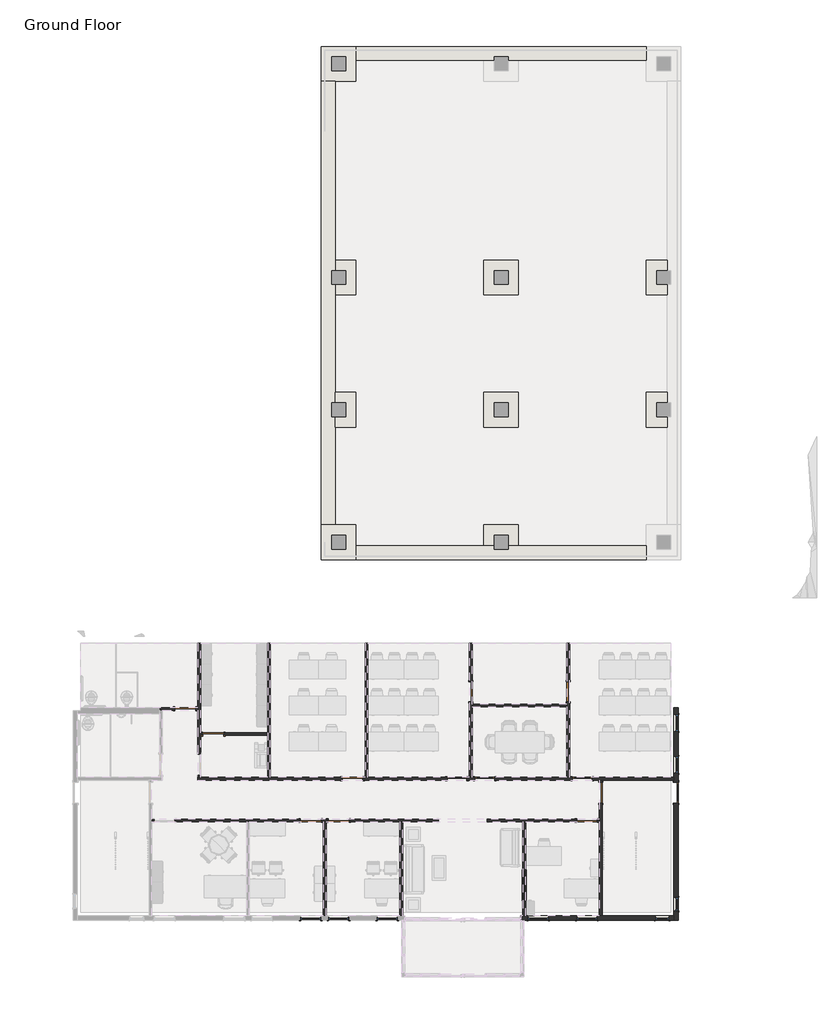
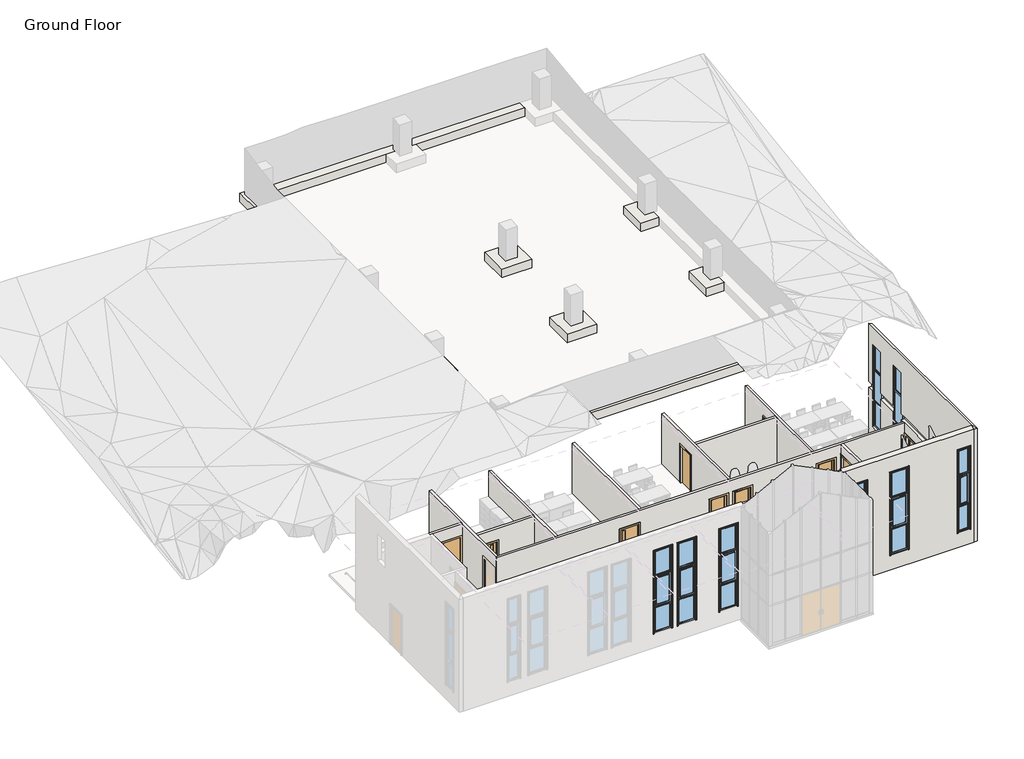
# One storey, part 3 of 5: 28 walls, 13 doors, 10 windows.
"""IFC4 building model written with IfcOpenShell, lengths in millimetres."""

from ifc_helpers import new_model, si_unit, frame, origin, place, context, project, spatial, polyline, outline, extrude, faceted_brep, transform, mapped, element, save
from components import door_ecd1ec3f, door_2f6dbc15, door_43f271b1, door_8f6ecfa2, door_0094a902, door_1467a2ec, door_2696ad5b, door_2dc82d73, door_9b494dca, window_81b49128, window_8adb934c, window_1e283364, window_fc414b9c

model = new_model("IFC4")

# Units and contexts
model_context = context("Model", 3, world=origin())
ifc_project = project(units=[si_unit("LENGTHUNIT", "METRE", prefix="MILLI")], contexts=[model_context])

# Site, building, storey
site = spatial("IfcSite", under=ifc_project)
building = spatial("IfcBuilding", under=site)
storey = spatial("IfcBuildingStorey", under=building, Name="Ground Floor", Elevation=39624.0)

# Doors
placement = place(None, origin())
door_shape = door_ecd1ec3f(model_context)
element("IfcDoor", 1, ObjectType="Single-Flush : 34\" x 80\"", at=placement, inside=storey, context=model_context, shape_type="MappedRepresentation", body=[
    mapped(door_shape, transform((-8424.8917336, -6050.0394844, 39624.0), x_axis=(0.0, -1.0, 0.0), y_axis=(1.0, 0.0, 0.0), z_axis=(0.0, 0.0, 1.0))),
])
door_2_shape = door_2f6dbc15(model_context)
element("IfcDoor", 2, ObjectType="Single-Flush : 34\" x 80\"", at=placement, inside=storey, context=model_context, shape_type="MappedRepresentation", body=[
    mapped(door_2_shape, transform((-4157.6917336, -6050.0394844, 39624.0), x_axis=(0.0, -1.0, 0.0), y_axis=(1.0, 0.0, 0.0), z_axis=(0.0, 0.0, 1.0))),
])
door_3_shape = door_43f271b1(model_context)
element("IfcDoor", 3, ObjectType="Single-Flush : 36\" x 80\"", at=placement, inside=storey, context=model_context, shape_type="MappedRepresentation", body=[
    mapped(door_3_shape, transform((-20921.6917336, -6808.8644844, 39624.0), x_axis=(1.0, 0.0, 0.0), y_axis=(0.0, 1.0, 0.0), z_axis=(0.0, 0.0, 1.0))),
])
door_4_shape = door_8f6ecfa2(model_context)
element("IfcDoor", 4, ObjectType="Single-Flush Vision : 36\" x 80\"", at=placement, inside=storey, context=model_context, shape_type="MappedRepresentation", body=[
    mapped(door_4_shape, transform((-14216.0917336, -11688.8394844, 39624.0), x_axis=(-1.0, 0.0, 0.0), y_axis=(0.0, -1.0, 0.0), z_axis=(0.0, 0.0, 1.0))),
])
element("IfcDoor", 5, ObjectType="Single-Flush Vision : 36\" x 80\"", at=placement, inside=storey, context=model_context, shape_type="MappedRepresentation", body=[
    mapped(door_4_shape, transform((-13606.4917336, -9860.0394844, 39624.0), x_axis=(1.0, 0.0, 0.0), y_axis=(0.0, 1.0, 0.0), z_axis=(0.0, 0.0, 1.0))),
])
door_5_shape = door_0094a902(model_context)
element("IfcDoor", 6, ObjectType="Single-Flush Vision : 36\" x 80\"", at=placement, inside=storey, context=model_context, shape_type="MappedRepresentation", body=[
    mapped(door_5_shape, transform((-15435.2917336, -11688.8394844, 39624.0), x_axis=(1.0, 0.0, 0.0), y_axis=(0.0, 1.0, 0.0), z_axis=(0.0, 0.0, 1.0))),
])
element("IfcDoor", 7, ObjectType="Single-Flush Vision : 36\" x 80\"", at=placement, inside=storey, context=model_context, shape_type="MappedRepresentation", body=[
    mapped(door_5_shape, transform((-19702.4917336, -7904.2394844, 39624.0), x_axis=(-1.0, 0.0, 0.0), y_axis=(0.0, -1.0, 0.0), z_axis=(0.0, 0.0, 1.0))),
])
element("IfcDoor", 8, ObjectType="Single-Flush Vision : 36\" x 80\"", at=placement, inside=storey, context=model_context, shape_type="MappedRepresentation", body=[
    mapped(door_5_shape, transform((-3344.8917336, -11688.8394844, 39624.0), x_axis=(1.0, 0.0, 0.0), y_axis=(0.0, 1.0, 0.0), z_axis=(0.0, 0.0, 1.0))),
])
door_6_shape = door_1467a2ec(model_context)
element("IfcDoor", 9, ObjectType="Single-Flush Vision : 36\" x 84\"", at=placement, inside=storey, context=model_context, shape_type="MappedRepresentation", body=[
    mapped(door_6_shape, transform((-2735.2917336, -10469.6394844, 39624.0), x_axis=(0.0, 1.0, 0.0), y_axis=(-1.0, 0.0, 0.0), z_axis=(0.0, 0.0, 1.0))),
])
door_7_shape = door_2696ad5b(model_context)
element("IfcDoor", 10, ObjectType="Single-Glass 1 : 34\" x 80\"", at=placement, inside=storey, context=model_context, shape_type="MappedRepresentation", body=[
    mapped(door_7_shape, transform((-9034.4917336, -9860.0394844, 39624.0), x_axis=(1.0, 0.0, 0.0), y_axis=(0.0, 1.0, 0.0), z_axis=(0.0, 0.0, 1.0))),
])
door_8_shape = door_2dc82d73(model_context)
element("IfcDoor", 11, ObjectType="Single-Glass 1 : 34\" x 80\"", at=placement, inside=storey, context=model_context, shape_type="MappedRepresentation", body=[
    mapped(door_8_shape, transform((-3548.0917336, -9860.0394844, 39624.0), x_axis=(-1.0, 0.0, 0.0), y_axis=(0.0, -1.0, 0.0), z_axis=(0.0, 0.0, 1.0))),
])
element("IfcDoor", 12, ObjectType="Single-Glass 1 : 34\" x 80\"", at=placement, inside=storey, context=model_context, shape_type="MappedRepresentation", body=[
    mapped(door_8_shape, transform((-7815.2917336, -9860.0394844, 39624.0), x_axis=(-1.0, 0.0, 0.0), y_axis=(0.0, -1.0, 0.0), z_axis=(0.0, 0.0, 1.0))),
])
door_9_shape = door_9b494dca(model_context)
element("IfcDoor", 13, ObjectType="Single-Glass 1 : 36\" x 84\"", at=placement, inside=storey, context=model_context, shape_type="MappedRepresentation", body=[
    mapped(door_9_shape, transform((555.5957664, -10469.6394844, 39624.0), x_axis=(0.0, 1.0, 0.0), y_axis=(-1.0, 0.0, 0.0), z_axis=(0.0, 0.0, 1.0))),
])

# Walls
element("IfcWall", 14, ObjectType="Exterior - Siding", at=placement, inside=storey, context=model_context, shape_type="Brep", body=[
    faceted_brep([(461.9332664, -15862.3769844, 39624.0), (-2673.3792336, -15862.3769844, 39624.0), (-2797.2042336, -15862.3769844, 39624.0), (-6026.1792336, -15862.3769844, 39624.0), (-6150.0042336, -15862.3769844, 39624.0), (-6245.2542336, -15862.3769844, 39624.0), (-6245.2542336, -15862.3769844, 42348.15), (-6150.0042336, -15862.3769844, 42348.15), (-6026.1792336, -15862.3769844, 42348.15), (-5935.6917336, -15862.3769844, 42348.15), (-5935.6917336, -15862.3769844, 40405.05), (-5021.2917336, -15862.3769844, 40405.05), (-5021.2917336, -15862.3769844, 42348.15), (-3802.0917336, -15862.3769844, 42348.15), (-3802.0917336, -15862.3769844, 40405.05), (-2887.6917336, -15862.3769844, 40405.05), (-2887.6917336, -15862.3769844, 42348.15), (-2797.2042336, -15862.3769844, 42348.15), (-2673.3792336, -15862.3769844, 42348.15), (-2673.3792336, -15862.3769844, 42672.0), (-2797.2042336, -15862.3769844, 42672.0), (-2887.6917336, -15862.3769844, 42672.0), (-2887.6917336, -15862.3769844, 44869.1), (-3802.0917336, -15862.3769844, 44869.1), (-3802.0917336, -15862.3769844, 42672.0), (-5021.2917336, -15862.3769844, 42672.0), (-5021.2917336, -15862.3769844, 44869.1), (-5935.6917336, -15862.3769844, 44869.1), (-5935.6917336, -15862.3769844, 42672.0), (-6026.1792336, -15862.3769844, 42672.0), (-6150.0042336, -15862.3769844, 42672.0), (-6245.2542336, -15862.3769844, 42672.0), (-6245.2542336, -15862.3769844, 45813.6625), (461.9332664, -15862.3769844, 45813.6625), (-358.8042336, -15862.3769844, 44869.1), (-358.8042336, -15862.3769844, 40405.05), (250.7957664, -15862.3769844, 40405.05), (250.7957664, -15862.3769844, 44869.1), (-6245.2542336, -16049.7019844, 39624.0), (461.9332664, -16049.7019844, 39624.0), (461.9332664, -16049.7019844, 45720.0), (-6181.7542336, -16049.7019844, 45720.0), (-6245.2542336, -16049.7019844, 45751.75), (-5935.6917336, -16049.7019844, 40405.05), (-5935.6917336, -16049.7019844, 44869.1), (-5021.2917336, -16049.7019844, 44869.1), (-5021.2917336, -16049.7019844, 40405.05), (-3802.0917336, -16049.7019844, 40405.05), (-3802.0917336, -16049.7019844, 44869.1), (-2887.6917336, -16049.7019844, 44869.1), (-2887.6917336, -16049.7019844, 40405.05), (-358.8042336, -16049.7019844, 40405.05), (-358.8042336, -16049.7019844, 44869.1), (250.7957664, -16049.7019844, 44869.1), (250.7957664, -16049.7019844, 40405.05), (-6245.2542336, -15986.2019844, 45751.75), (-6245.2542336, -16017.9519844, 42672.0), (-6245.2542336, -16017.9519844, 42348.15), (-5935.6917336, -16017.9519844, 42348.15), (-5935.6917336, -16017.9519844, 42672.0), (-5021.2917336, -16017.9519844, 42672.0), (-5021.2917336, -16017.9519844, 42348.15), (-3802.0917336, -16017.9519844, 42348.15), (-3802.0917336, -16017.9519844, 42672.0), (-2887.6917336, -16017.9519844, 42672.0), (-2887.6917336, -16017.9519844, 42348.15), (-2673.3792336, -16017.9519844, 42348.15), (-2673.3792336, -16017.9519844, 42672.0)], [[[0, 1, 2, 3, 4, 5, 6, 7, 8, 9, 10, 11, 12, 13, 14, 15, 16, 17, 18, 19, 20, 21, 22, 23, 24, 25, 26, 27, 28, 29, 30, 31, 32, 33], [34, 35, 36, 37]], [[38, 39, 40, 41, 42], [43, 44, 45, 46], [47, 48, 49, 50], [51, 52, 53, 54]], [[5, 4, 3, 2, 1, 0, 39, 38]], [[38, 42, 55, 32, 31, 56, 57, 6, 5]], [[0, 33, 40, 39]], [[40, 33, 32, 55, 41]], [[55, 42, 41]], [[27, 44, 43, 10, 9, 58, 59, 28]], [[10, 43, 46, 11]], [[11, 46, 45, 26, 25, 60, 61, 12]], [[44, 27, 26, 45]], [[23, 48, 47, 14, 13, 62, 63, 24]], [[14, 47, 50, 15]], [[15, 50, 49, 22, 21, 64, 65, 16]], [[48, 23, 22, 49]], [[35, 34, 52, 51]], [[36, 35, 51, 54]], [[37, 36, 54, 53]], [[34, 37, 53, 52]], [[57, 58, 9, 8, 7, 6]], [[61, 62, 13, 12]], [[65, 66, 18, 17, 16]], [[19, 67, 64, 21, 20]], [[59, 56, 31, 30, 29, 28]], [[63, 60, 25, 24]], [[66, 67, 19, 18]], [[67, 66, 65, 64]], [[58, 57, 56, 59]], [[62, 61, 60, 63]]]),
])
element("IfcWall", 15, ObjectType="Exterior - Siding", at=placement, inside=storey, context=model_context, shape_type="Brep", body=[
    faceted_brep([(461.9332664, -16049.7019844, 39624.0), (461.9332664, -16049.7019844, 45720.0), (461.9332664, -15862.3769844, 45813.6625), (461.9332664, -6746.9519844, 45813.6625), (461.9332664, -6746.9519844, 42672.0), (461.9332664, -7040.6394844, 42672.0), (461.9332664, -7040.6394844, 44869.1), (461.9332664, -7802.6394844, 44869.1), (461.9332664, -7802.6394844, 42672.0), (461.9332664, -8869.4394844, 42672.0), (461.9332664, -8869.4394844, 44869.1), (461.9332664, -9631.4394844, 44869.1), (461.9332664, -9631.4394844, 42672.0), (461.9332664, -9798.1269844, 42672.0), (461.9332664, -9921.9519844, 42672.0), (461.9332664, -12204.7769844, 42672.0), (461.9332664, -12204.7769844, 42348.15), (461.9332664, -9921.9519844, 42348.15), (461.9332664, -9798.1269844, 42348.15), (461.9332664, -9631.4394844, 42348.15), (461.9332664, -9631.4394844, 40405.05), (461.9332664, -8869.4394844, 40405.05), (461.9332664, -8869.4394844, 42348.15), (461.9332664, -7802.6394844, 42348.15), (461.9332664, -7802.6394844, 40405.05), (461.9332664, -7040.6394844, 40405.05), (461.9332664, -7040.6394844, 42348.15), (461.9332664, -6746.9519844, 42348.15), (461.9332664, -6746.9519844, 39624.0), (461.9332664, -9798.1269844, 39624.0), (461.9332664, -9921.9519844, 39624.0), (461.9332664, -10012.4394844, 39624.0), (461.9332664, -10012.4394844, 41757.6), (461.9332664, -10926.8394844, 41757.6), (461.9332664, -10926.8394844, 39624.0), (461.9332664, -15862.3769844, 39624.0), (461.9332664, -15651.2394844, 44869.1), (461.9332664, -15651.2394844, 40405.05), (461.9332664, -15041.6394844, 40405.05), (461.9332664, -15041.6394844, 44869.1), (649.2582664, -6746.9519844, 45720.0), (649.2582664, -16049.7019844, 45720.0), (649.2582664, -16049.7019844, 39624.0), (649.2582664, -10926.8394844, 39624.0), (649.2582664, -10926.8394844, 41757.6), (649.2582664, -10012.4394844, 41757.6), (649.2582664, -10012.4394844, 39624.0), (649.2582664, -6746.9519844, 39624.0), (649.2582664, -6746.9519844, 42672.0), (649.2582664, -15651.2394844, 40405.05), (649.2582664, -15651.2394844, 44869.1), (649.2582664, -15041.6394844, 44869.1), (649.2582664, -15041.6394844, 40405.05), (649.2582664, -9631.4394844, 40405.05), (649.2582664, -9631.4394844, 44869.1), (649.2582664, -8869.4394844, 44869.1), (649.2582664, -8869.4394844, 40405.05), (649.2582664, -7802.6394844, 40405.05), (649.2582664, -7802.6394844, 44869.1), (649.2582664, -7040.6394844, 44869.1), (649.2582664, -7040.6394844, 40405.05), (617.5082664, -6746.9519844, 42348.15), (617.5082664, -6746.9519844, 42672.0), (617.5082664, -9631.4394844, 42348.15), (617.5082664, -9631.4394844, 42672.0), (617.5082664, -8869.4394844, 42672.0), (617.5082664, -8869.4394844, 42348.15), (617.5082664, -7802.6394844, 42348.15), (617.5082664, -7802.6394844, 42672.0), (617.5082664, -7040.6394844, 42672.0), (617.5082664, -7040.6394844, 42348.15), (617.5082664, -12204.7769844, 42348.15), (617.5082664, -12204.7769844, 42672.0)], [[[0, 1, 2, 3, 4, 5, 6, 7, 8, 9, 10, 11, 12, 13, 14, 15, 16, 17, 18, 19, 20, 21, 22, 23, 24, 25, 26, 27, 28, 29, 30, 31, 32, 33, 34, 35], [36, 37, 38, 39]], [[40, 41, 42, 43, 44, 45, 46, 47, 48], [49, 50, 51, 52], [53, 54, 55, 56], [57, 58, 59, 60]], [[28, 47, 46, 31, 30, 29]], [[42, 0, 35, 34, 43]], [[40, 48, 47, 28, 27, 61, 62, 4, 3]], [[1, 0, 42, 41]], [[41, 40, 3, 2]], [[1, 41, 2]], [[32, 31, 46, 45]], [[33, 32, 45, 44]], [[34, 33, 44, 43]], [[37, 36, 50, 49]], [[38, 37, 49, 52]], [[39, 38, 52, 51]], [[36, 39, 51, 50]], [[54, 53, 20, 19, 63, 64, 12, 11]], [[21, 20, 53, 56]], [[56, 55, 10, 9, 65, 66, 22, 21]], [[11, 10, 55, 54]], [[58, 57, 24, 23, 67, 68, 8, 7]], [[25, 24, 57, 60]], [[60, 59, 6, 5, 69, 70, 26, 25]], [[7, 6, 59, 58]], [[16, 71, 63, 19, 18, 17]], [[66, 67, 23, 22]], [[70, 61, 27, 26]], [[64, 72, 15, 14, 13, 12]], [[68, 65, 9, 8]], [[62, 69, 5, 4]], [[71, 72, 64, 63]], [[67, 66, 65, 68]], [[61, 70, 69, 62]], [[72, 71, 16, 15]]]),
])
element("IfcWall", 16, ObjectType="Footing", at=placement, inside=storey, context=model_context, shape_type="Brep", body=[
    faceted_brep([(-13454.0917336, 21574.0480156, 40233.6), (-7866.0917336, 21574.0480156, 40233.6), (-6342.0917336, 21574.0480156, 40233.6), (-754.0917336, 21574.0480156, 40233.6), (-754.0917336, 21574.0480156, 40690.8), (-6342.0917336, 21574.0480156, 40690.8), (-7866.0917336, 21574.0480156, 40690.8), (-13454.0917336, 21574.0480156, 40690.8), (-13454.0917336, 22183.6480156, 40233.6), (-13454.0917336, 22183.6480156, 40690.8), (-754.0917336, 22183.6480156, 40690.8), (-754.0917336, 22183.6480156, 40233.6)], [[[0, 1, 2, 3, 4, 5, 6, 7]], [[8, 9, 10, 11]], [[3, 2, 1, 0, 8, 11]], [[7, 6, 5, 4, 10, 9]], [[4, 3, 11, 10]], [[0, 7, 9, 8]]]),
])
element("IfcWall", 17, ObjectType="Footing", at=placement, inside=storey, context=model_context, shape_type="Brep", body=[
    faceted_brep([(-754.0917336, 339.6480156, 40233.6), (-6342.0917336, 339.6480156, 40233.6), (-7866.0917336, 339.6480156, 40233.6), (-13454.0917336, 339.6480156, 40233.6), (-13454.0917336, 339.6480156, 40690.8), (-7866.0917336, 339.6480156, 40690.8), (-6342.0917336, 339.6480156, 40690.8), (-754.0917336, 339.6480156, 40690.8), (-754.0917336, -269.9519844, 40233.6), (-754.0917336, -269.9519844, 40690.8), (-13454.0917336, -269.9519844, 40690.8), (-13454.0917336, -269.9519844, 40233.6)], [[[0, 1, 2, 3, 4, 5, 6, 7]], [[8, 9, 10, 11]], [[3, 2, 1, 0, 8, 11]], [[7, 6, 5, 4, 10, 9]], [[4, 3, 11, 10]], [[0, 7, 9, 8]]]),
])
element("IfcWall", 18, ObjectType="Footing", at=placement, inside=storey, context=model_context, shape_type="Brep", body=[
    faceted_brep([(-14368.4917336, 1254.0480156, 40233.6), (-14368.4917336, 5521.2480156, 40233.6), (-14368.4917336, 7045.2480156, 40233.6), (-14368.4917336, 11312.4480156, 40233.6), (-14368.4917336, 12836.4480156, 40233.6), (-14368.4917336, 20659.6480156, 40233.6), (-14368.4917336, 20659.6480156, 40690.8), (-14368.4917336, 12836.4480156, 40690.8), (-14368.4917336, 11312.4480156, 40690.8), (-14368.4917336, 7045.2480156, 40690.8), (-14368.4917336, 5521.2480156, 40690.8), (-14368.4917336, 1254.0480156, 40690.8), (-14978.0917336, 1254.0480156, 40233.6), (-14978.0917336, 1254.0480156, 40690.8), (-14978.0917336, 20659.6480156, 40690.8), (-14978.0917336, 20659.6480156, 40233.6)], [[[0, 1, 2, 3, 4, 5, 6, 7, 8, 9, 10, 11]], [[12, 13, 14, 15]], [[5, 4, 3, 2, 1, 0, 12, 15]], [[6, 5, 15, 14]], [[11, 10, 9, 8, 7, 6, 14, 13]], [[0, 11, 13, 12]]]),
])
element("IfcWall", 19, ObjectType="Footing 2", at=placement, inside=storey, context=model_context, shape_type="Brep", body=[
    faceted_brep([(-13454.0917336, -269.9519844, 40233.6), (-13454.0917336, 339.6480156, 40233.6), (-13454.0917336, 1254.0480156, 40233.6), (-13454.0917336, 1254.0480156, 40690.8), (-13454.0917336, 339.6480156, 40690.8), (-13454.0917336, -269.9519844, 40690.8), (-14978.0917336, -269.9519844, 40233.6), (-14978.0917336, -269.9519844, 40690.8), (-14978.0917336, 1254.0480156, 40690.8), (-14978.0917336, 1254.0480156, 40233.6), (-14368.4917336, 1254.0480156, 40233.6), (-14368.4917336, 1254.0480156, 40690.8)], [[[0, 1, 2, 3, 4, 5]], [[6, 7, 8, 9]], [[2, 1, 0, 6, 9, 10]], [[3, 2, 10, 9, 8, 11]], [[5, 4, 3, 11, 8, 7]], [[0, 5, 7, 6]]]),
])
element("IfcWall", 20, ObjectType="Footing 2", at=placement, inside=storey, context=model_context, shape_type="SweptSolid", body=[
    extrude(outline(polyline([(-13454.0917336, 11312.4480156), (-14368.4917336, 11312.4480156), (-14368.4917336, 12836.4480156), (-13454.0917336, 12836.4480156), (-13454.0917336, 11312.4480156)])), frame((0.0, 0.0, 40233.6), z_axis=(0.0, 0.0, 1.0), x_axis=(1.0, 0.0, 0.0)), (0.0, 0.0, 1.0), 457.2),
])
element("IfcWall", 21, ObjectType="Footing 2", at=placement, inside=storey, context=model_context, shape_type="SweptSolid", body=[
    extrude(outline(polyline([(160.3082664, 11312.4480156), (-754.0917336, 11312.4480156), (-754.0917336, 12836.4480156), (160.3082664, 12836.4480156), (160.3082664, 11312.4480156)])), frame((0.0, 0.0, 40233.6), z_axis=(0.0, 0.0, 1.0), x_axis=(1.0, 0.0, 0.0)), (0.0, 0.0, 1.0), 457.2),
])
element("IfcWall", 22, ObjectType="Footing 2", at=placement, inside=storey, context=model_context, shape_type="SweptSolid", body=[
    extrude(outline(polyline([(-13454.0917336, 5521.2480156), (-14368.4917336, 5521.2480156), (-14368.4917336, 7045.2480156), (-13454.0917336, 7045.2480156), (-13454.0917336, 5521.2480156)])), frame((0.0, 0.0, 40233.6), z_axis=(0.0, 0.0, 1.0), x_axis=(1.0, 0.0, 0.0)), (0.0, 0.0, 1.0), 457.2),
])
element("IfcWall", 23, ObjectType="Footing 2", at=placement, inside=storey, context=model_context, shape_type="SweptSolid", body=[
    extrude(outline(polyline([(160.3082664, 5521.2480156), (-754.0917336, 5521.2480156), (-754.0917336, 7045.2480156), (160.3082664, 7045.2480156), (160.3082664, 5521.2480156)])), frame((0.0, 0.0, 40233.6), z_axis=(0.0, 0.0, 1.0), x_axis=(1.0, 0.0, 0.0)), (0.0, 0.0, 1.0), 457.2),
])
element("IfcWall", 24, ObjectType="Footing 2", at=placement, inside=storey, context=model_context, shape_type="SweptSolid", body=[
    extrude(outline(polyline([(-6342.0917336, 1254.0480156), (-6342.0917336, 339.6480156), (-7866.0917336, 339.6480156), (-7866.0917336, 1254.0480156), (-6342.0917336, 1254.0480156)])), frame((0.0, 0.0, 40233.6), z_axis=(0.0, 0.0, 1.0), x_axis=(1.0, 0.0, 0.0)), (0.0, 0.0, 1.0), 457.2),
])
element("IfcWall", 25, ObjectType="Footing 2", at=placement, inside=storey, context=model_context, shape_type="Brep", body=[
    faceted_brep([(-13454.0917336, 20659.6480156, 40233.6), (-13454.0917336, 21574.0480156, 40233.6), (-13454.0917336, 22183.6480156, 40233.6), (-13454.0917336, 22183.6480156, 40690.8), (-13454.0917336, 21574.0480156, 40690.8), (-13454.0917336, 20659.6480156, 40690.8), (-14978.0917336, 20659.6480156, 40233.6), (-14978.0917336, 20659.6480156, 40690.8), (-14978.0917336, 22183.6480156, 40690.8), (-14978.0917336, 22183.6480156, 40233.6), (-14368.4917336, 20659.6480156, 40233.6), (-14368.4917336, 20659.6480156, 40690.8)], [[[0, 1, 2, 3, 4, 5]], [[6, 7, 8, 9]], [[2, 1, 0, 10, 6, 9]], [[5, 4, 3, 8, 7, 11]], [[0, 5, 11, 7, 6, 10]], [[3, 2, 9, 8]]]),
])
element("IfcWall", 26, ObjectType="Footing 2", at=placement, inside=storey, context=model_context, shape_type="SweptSolid", body=[
    extrude(outline(polyline([(-6342.0917336, 12836.4480156), (-6342.0917336, 11312.4480156), (-7866.0917336, 11312.4480156), (-7866.0917336, 12836.4480156), (-6342.0917336, 12836.4480156)])), frame((0.0, 0.0, 40233.6), z_axis=(0.0, 0.0, 1.0), x_axis=(1.0, 0.0, 0.0)), (0.0, 0.0, 1.0), 457.2),
])
element("IfcWall", 27, ObjectType="Footing 2", at=placement, inside=storey, context=model_context, shape_type="SweptSolid", body=[
    extrude(outline(polyline([(-6342.0917336, 7045.2480156), (-6342.0917336, 5521.2480156), (-7866.0917336, 5521.2480156), (-7866.0917336, 7045.2480156), (-6342.0917336, 7045.2480156)])), frame((0.0, 0.0, 40233.6), z_axis=(0.0, 0.0, 1.0), x_axis=(1.0, 0.0, 0.0)), (0.0, 0.0, 1.0), 457.2),
])
element("IfcWall", 28, ObjectType="Interior - 4 7/8\" Partition (1-hr)", at=placement, inside=storey, context=model_context, shape_type="Brep", body=[
    faceted_brep([(-2673.3792336, -10012.4394844, 41757.6), (-2673.3792336, -10012.4394844, 39624.0), (-2673.3792336, -9921.9519844, 39624.0), (-2673.3792336, -9921.9519844, 42348.15), (-2673.3792336, -12204.7769844, 42348.15), (-2673.3792336, -15862.3769844, 42348.15), (-2673.3792336, -15862.3769844, 39624.0), (-2673.3792336, -10926.8394844, 39624.0), (-2673.3792336, -10926.8394844, 41757.6), (-2797.2042336, -9921.9519844, 39624.0), (-2797.2042336, -10012.4394844, 39624.0), (-2797.2042336, -10012.4394844, 41757.6), (-2797.2042336, -10926.8394844, 41757.6), (-2797.2042336, -10926.8394844, 39624.0), (-2797.2042336, -11626.9269844, 39624.0), (-2797.2042336, -11750.7519844, 39624.0), (-2797.2042336, -15862.3769844, 39624.0), (-2797.2042336, -15862.3769844, 42348.15), (-2797.2042336, -11750.7519844, 42348.15), (-2797.2042336, -11626.9269844, 42348.15), (-2797.2042336, -9921.9519844, 42348.15)], [[[0, 1, 2, 3, 4, 5, 6, 7, 8]], [[9, 10, 11, 12, 13, 14, 15, 16, 17, 18, 19, 20]], [[2, 1, 10, 9]], [[7, 6, 16, 15, 14, 13]], [[6, 5, 17, 16]], [[3, 2, 9, 20]], [[5, 4, 3, 20, 19, 18, 17]], [[11, 10, 1, 0]], [[12, 11, 0, 8]], [[13, 12, 8, 7]]]),
])
element("IfcWall", 29, ObjectType="Interior - 4 7/8\" Partition (1-hr)", at=placement, inside=storey, context=model_context, shape_type="Brep", body=[
    faceted_brep([(-3802.0917336, -11626.9269844, 39624.0), (-7713.6917336, -11626.9269844, 39624.0), (-7713.6917336, -11626.9269844, 41757.6), (-9847.2917336, -11626.9269844, 41757.6), (-9847.2917336, -11626.9269844, 39624.0), (-13758.8917336, -11626.9269844, 39624.0), (-13758.8917336, -11626.9269844, 41656.0), (-14673.2917336, -11626.9269844, 41656.0), (-14673.2917336, -11626.9269844, 39624.0), (-14978.0917336, -11626.9269844, 39624.0), (-14978.0917336, -11626.9269844, 41656.0), (-15892.4917336, -11626.9269844, 41656.0), (-15892.4917336, -11626.9269844, 39624.0), (-21378.8917336, -11626.9269844, 39624.0), (-21378.8917336, -11626.9269844, 41757.6), (-22293.2917336, -11626.9269844, 41757.6), (-22293.2917336, -11626.9269844, 39624.0), (-22383.7792336, -11626.9269844, 39624.0), (-22383.7792336, -11626.9269844, 42348.15), (-2797.2042336, -11626.9269844, 42348.15), (-2797.2042336, -11626.9269844, 39624.0), (-2887.6917336, -11626.9269844, 39624.0), (-2887.6917336, -11626.9269844, 41656.0), (-3802.0917336, -11626.9269844, 41656.0), (-7713.6917336, -11750.7519844, 41757.6), (-7713.6917336, -11750.7519844, 39624.0), (-6150.0042336, -11750.7519844, 39624.0), (-6026.1792336, -11750.7519844, 39624.0), (-3802.0917336, -11750.7519844, 39624.0), (-3802.0917336, -11750.7519844, 41656.0), (-2887.6917336, -11750.7519844, 41656.0), (-2887.6917336, -11750.7519844, 39624.0), (-2797.2042336, -11750.7519844, 39624.0), (-2797.2042336, -11750.7519844, 42348.15), (-6026.1792336, -11750.7519844, 42348.15), (-6150.0042336, -11750.7519844, 42348.15), (-11410.9792336, -11750.7519844, 42348.15), (-11534.8042336, -11750.7519844, 42348.15), (-14763.7792336, -11750.7519844, 42348.15), (-14887.6042336, -11750.7519844, 42348.15), (-18116.5792336, -11750.7519844, 42348.15), (-18240.4042336, -11750.7519844, 42348.15), (-22383.7792336, -11750.7519844, 42348.15), (-22383.7792336, -11750.7519844, 39624.0), (-22293.2917336, -11750.7519844, 39624.0), (-22293.2917336, -11750.7519844, 41757.6), (-21378.8917336, -11750.7519844, 41757.6), (-21378.8917336, -11750.7519844, 39624.0), (-18240.4042336, -11750.7519844, 39624.0), (-18116.5792336, -11750.7519844, 39624.0), (-15892.4917336, -11750.7519844, 39624.0), (-15892.4917336, -11750.7519844, 41656.0), (-14978.0917336, -11750.7519844, 41656.0), (-14978.0917336, -11750.7519844, 39624.0), (-14887.6042336, -11750.7519844, 39624.0), (-14763.7792336, -11750.7519844, 39624.0), (-14673.2917336, -11750.7519844, 39624.0), (-14673.2917336, -11750.7519844, 41656.0), (-13758.8917336, -11750.7519844, 41656.0), (-13758.8917336, -11750.7519844, 39624.0), (-11534.8042336, -11750.7519844, 39624.0), (-11410.9792336, -11750.7519844, 39624.0), (-9847.2917336, -11750.7519844, 39624.0), (-9847.2917336, -11750.7519844, 41757.6)], [[[0, 1, 2, 3, 4, 5, 6, 7, 8, 9, 10, 11, 12, 13, 14, 15, 16, 17, 18, 19, 20, 21, 22, 23]], [[24, 25, 26, 27, 28, 29, 30, 31, 32, 33, 34, 35, 36, 37, 38, 39, 40, 41, 42, 43, 44, 45, 46, 47, 48, 49, 50, 51, 52, 53, 54, 55, 56, 57, 58, 59, 60, 61, 62, 63]], [[56, 55, 54, 53, 9, 8]], [[32, 31, 21, 20]], [[17, 16, 44, 43]], [[13, 12, 50, 49, 48, 47]], [[28, 27, 26, 25, 1, 0]], [[62, 61, 60, 59, 5, 4]], [[18, 17, 43, 42]], [[20, 19, 33, 32]], [[19, 18, 42, 41, 40, 39, 38, 37, 36, 35, 34, 33]], [[57, 56, 8, 7]], [[58, 57, 7, 6]], [[59, 58, 6, 5]], [[10, 9, 53, 52]], [[11, 10, 52, 51]], [[12, 11, 51, 50]], [[45, 44, 16, 15]], [[46, 45, 15, 14]], [[47, 46, 14, 13]], [[22, 21, 31, 30]], [[23, 22, 30, 29]], [[0, 23, 29, 28]], [[4, 3, 63, 62]], [[2, 1, 25, 24]], [[3, 2, 24, 63]]]),
])
element("IfcWall", 30, ObjectType="Interior - 4 7/8\" Partition (1-hr)", at=placement, inside=storey, context=model_context, shape_type="SweptSolid", body=[
    extrude(outline(polyline([(-14763.7792336, -11750.7519844), (-14763.7792336, -15862.3769844), (-14887.6042336, -15862.3769844), (-14887.6042336, -11750.7519844), (-14763.7792336, -11750.7519844)])), frame((0.0, 0.0, 39624.0), z_axis=(0.0, 0.0, 1.0), x_axis=(1.0, 0.0, 0.0)), (0.0, 0.0, 1.0), 2724.15),
])
element("IfcWall", 31, ObjectType="Interior - 4 7/8\" Partition (1-hr)", at=placement, inside=storey, context=model_context, shape_type="SweptSolid", body=[
    extrude(outline(polyline([(-11410.9792336, -11750.7519844), (-11410.9792336, -15862.3769844), (-11534.8042336, -15862.3769844), (-11534.8042336, -11750.7519844), (-11410.9792336, -11750.7519844)])), frame((0.0, 0.0, 39624.0), z_axis=(0.0, 0.0, 1.0), x_axis=(1.0, 0.0, 0.0)), (0.0, 0.0, 1.0), 2724.15),
])
element("IfcWall", 32, ObjectType="Interior - 4 7/8\" Partition (1-hr)", at=placement, inside=storey, context=model_context, shape_type="SweptSolid", body=[
    extrude(outline(polyline([(-15862.3769844, 39624.0), (-15862.3769844, 42348.15), (-11750.7519844, 42348.15), (-11750.7519844, 39624.0), (-15862.3769844, 39624.0)]), holes=[polyline([(-13906.5769844, 41757.6), (-15125.7769844, 41757.6), (-15125.7769844, 40538.4), (-13906.5769844, 40538.4), (-13906.5769844, 41757.6)])]), frame((-6150.0042336, 0.0, 0.0), z_axis=(1.0, 0.0, 0.0), x_axis=(0.0, 1.0, 0.0)), (0.0, 0.0, 1.0), 123.825),
])
element("IfcWall", 33, ObjectType="Interior - 4 7/8\" Partition (1-hr)", at=placement, inside=storey, context=model_context, shape_type="Brep", body=[
    faceted_brep([(-20374.0042336, -9707.6394844, 41656.0), (-20374.0042336, -9707.6394844, 39624.0), (-20374.0042336, -9798.1269844, 39624.0), (-20374.0042336, -9798.1269844, 42348.15), (-20374.0042336, -6870.7769844, 42348.15), (-20374.0042336, -6746.9519844, 42348.15), (-20374.0042336, -3927.5519844, 42348.15), (-20374.0042336, -3927.5519844, 39624.0), (-20374.0042336, -6746.9519844, 39624.0), (-20374.0042336, -6870.7769844, 39624.0), (-20374.0042336, -8793.2394844, 39624.0), (-20374.0042336, -8793.2394844, 41656.0), (-20250.1792336, -9798.1269844, 39624.0), (-20250.1792336, -9707.6394844, 39624.0), (-20250.1792336, -9707.6394844, 41656.0), (-20250.1792336, -8793.2394844, 41656.0), (-20250.1792336, -8793.2394844, 39624.0), (-20250.1792336, -7966.1519844, 39624.0), (-20250.1792336, -7842.3269844, 39624.0), (-20250.1792336, -3927.5519844, 39624.0), (-20250.1792336, -3927.5519844, 42348.15), (-20250.1792336, -7842.3269844, 42348.15), (-20250.1792336, -7966.1519844, 42348.15), (-20250.1792336, -9798.1269844, 42348.15)], [[[0, 1, 2, 3, 4, 5, 6, 7, 8, 9, 10, 11]], [[12, 13, 14, 15, 16, 17, 18, 19, 20, 21, 22, 23]], [[2, 1, 13, 12]], [[10, 9, 8, 7, 19, 18, 17, 16]], [[7, 6, 20, 19]], [[3, 2, 12, 23]], [[6, 5, 4, 3, 23, 22, 21, 20]], [[14, 13, 1, 0]], [[15, 14, 0, 11]], [[16, 15, 11, 10]]]),
])
element("IfcWall", 34, ObjectType="Interior - 4 7/8\" Partition (1-hr)", at=placement, inside=storey, context=model_context, shape_type="Brep", body=[
    faceted_brep([(-17326.0042336, -3927.5519844, 39624.0), (-17326.0042336, -7842.3269844, 39624.0), (-17326.0042336, -7966.1519844, 39624.0), (-17326.0042336, -9798.1269844, 39624.0), (-17326.0042336, -9798.1269844, 42348.15), (-17326.0042336, -7966.1519844, 42348.15), (-17326.0042336, -7842.3269844, 42348.15), (-17326.0042336, -3927.5519844, 42348.15), (-17202.1792336, -3927.5519844, 39624.0), (-17202.1792336, -3927.5519844, 42348.15), (-17202.1792336, -9798.1269844, 42348.15), (-17202.1792336, -9798.1269844, 39624.0)], [[[0, 1, 2, 3, 4, 5, 6, 7]], [[8, 9, 10, 11]], [[3, 2, 1, 0, 8, 11]], [[0, 7, 9, 8]], [[4, 3, 11, 10]], [[7, 6, 5, 4, 10, 9]]]),
])
element("IfcWall", 35, ObjectType="Interior - 4 7/8\" Partition (1-hr)", at=placement, inside=storey, context=model_context, shape_type="SweptSolid", body=[
    extrude(outline(polyline([(-13058.8042336, -9798.1269844), (-13058.8042336, -3927.5519844), (-12934.9792336, -3927.5519844), (-12934.9792336, -9798.1269844), (-13058.8042336, -9798.1269844)])), frame((0.0, 0.0, 39624.0), z_axis=(0.0, 0.0, 1.0), x_axis=(1.0, 0.0, 0.0)), (0.0, 0.0, 1.0), 2724.15),
])
element("IfcWall", 36, ObjectType="Interior - 4 7/8\" Partition (1-hr)", at=placement, inside=storey, context=model_context, shape_type="Brep", body=[
    faceted_brep([(-8486.8042336, -6481.8394844, 41656.0), (-8486.8042336, -6481.8394844, 39624.0), (-8486.8042336, -9798.1269844, 39624.0), (-8486.8042336, -9798.1269844, 42348.15), (-8486.8042336, -3927.5519844, 42348.15), (-8486.8042336, -3927.5519844, 39624.0), (-8486.8042336, -5618.2394844, 39624.0), (-8486.8042336, -5618.2394844, 41656.0), (-8362.9792336, -9798.1269844, 39624.0), (-8362.9792336, -6721.5519844, 39624.0), (-8362.9792336, -6597.7269844, 39624.0), (-8362.9792336, -6481.8394844, 39624.0), (-8362.9792336, -6481.8394844, 41656.0), (-8362.9792336, -5618.2394844, 41656.0), (-8362.9792336, -5618.2394844, 39624.0), (-8362.9792336, -3927.5519844, 39624.0), (-8362.9792336, -3927.5519844, 42348.15), (-8362.9792336, -6597.7269844, 42348.15), (-8362.9792336, -6721.5519844, 42348.15), (-8362.9792336, -9798.1269844, 42348.15)], [[[0, 1, 2, 3, 4, 5, 6, 7]], [[8, 9, 10, 11, 12, 13, 14, 15, 16, 17, 18, 19]], [[2, 1, 11, 10, 9, 8]], [[6, 5, 15, 14]], [[5, 4, 16, 15]], [[3, 2, 8, 19]], [[4, 3, 19, 18, 17, 16]], [[12, 11, 1, 0]], [[13, 12, 0, 7]], [[14, 13, 7, 6]]]),
])
element("IfcWall", 37, ObjectType="Interior - 4 7/8\" Partition (1-hr)", at=placement, inside=storey, context=model_context, shape_type="Brep", body=[
    faceted_brep([(-4219.6042336, -6481.8394844, 41656.0), (-4219.6042336, -6481.8394844, 39624.0), (-4219.6042336, -6597.7269844, 39624.0), (-4219.6042336, -6721.5519844, 39624.0), (-4219.6042336, -9798.1269844, 39624.0), (-4219.6042336, -9798.1269844, 42348.15), (-4219.6042336, -6721.5519844, 42348.15), (-4219.6042336, -6597.7269844, 42348.15), (-4219.6042336, -3927.5519844, 42348.15), (-4219.6042336, -3927.5519844, 39624.0), (-4219.6042336, -5618.2394844, 39624.0), (-4219.6042336, -5618.2394844, 41656.0), (-4095.7792336, -9798.1269844, 39624.0), (-4095.7792336, -6481.8394844, 39624.0), (-4095.7792336, -6481.8394844, 41656.0), (-4095.7792336, -5618.2394844, 41656.0), (-4095.7792336, -5618.2394844, 39624.0), (-4095.7792336, -3927.5519844, 39624.0), (-4095.7792336, -3927.5519844, 42348.15), (-4095.7792336, -9798.1269844, 42348.15)], [[[0, 1, 2, 3, 4, 5, 6, 7, 8, 9, 10, 11]], [[12, 13, 14, 15, 16, 17, 18, 19]], [[4, 3, 2, 1, 13, 12]], [[10, 9, 17, 16]], [[9, 8, 18, 17]], [[5, 4, 12, 19]], [[8, 7, 6, 5, 19, 18]], [[14, 13, 1, 0]], [[15, 14, 0, 11]], [[16, 15, 11, 10]]]),
])
element("IfcWall", 38, ObjectType="Interior - 4 7/8\" Partition (1-hr)", at=placement, inside=storey, context=model_context, shape_type="SweptSolid", body=[
    extrude(outline(polyline([(-4219.6042336, -6721.5519844), (-8362.9792336, -6721.5519844), (-8362.9792336, -6597.7269844), (-4219.6042336, -6597.7269844), (-4219.6042336, -6721.5519844)])), frame((0.0, 0.0, 39624.0), z_axis=(0.0, 0.0, 1.0), x_axis=(1.0, 0.0, 0.0)), (0.0, 0.0, 1.0), 2724.15),
])
element("IfcWall", 39, ObjectType="Interior - 4 7/8\" Partition (1-hr)", at=placement, inside=storey, context=model_context, shape_type="SweptSolid", body=[
    extrude(outline(polyline([(39624.0, -20250.1792336), (39624.0, -20159.6917336), (41656.0, -20159.6917336), (41656.0, -19245.2917336), (39624.0, -19245.2917336), (39624.0, -17326.0042336), (42348.15, -17326.0042336), (42348.15, -20250.1792336), (39624.0, -20250.1792336)])), frame((0.0, -7966.1519844, 0.0), z_axis=(0.0, 1.0, 0.0), x_axis=(0.0, 0.0, 1.0)), (0.0, 0.0, 1.0), 123.825),
])
element("IfcWall", 40, ObjectType="Interior - 4 7/8\" Partition (1-hr)", at=placement, inside=storey, context=model_context, shape_type="Brep", body=[
    faceted_brep([(-20374.0042336, -9921.9519844, 42348.15), (-20374.0042336, -9921.9519844, 39624.0), (-14063.6917336, -9921.9519844, 39624.0), (-14063.6917336, -9921.9519844, 41656.0), (-13149.2917336, -9921.9519844, 41656.0), (-13149.2917336, -9921.9519844, 39624.0), (-9466.2917336, -9921.9519844, 39624.0), (-9466.2917336, -9921.9519844, 41656.0), (-8602.6917336, -9921.9519844, 41656.0), (-8602.6917336, -9921.9519844, 39624.0), (-8247.0917336, -9921.9519844, 39624.0), (-8247.0917336, -9921.9519844, 41656.0), (-7383.4917336, -9921.9519844, 41656.0), (-7383.4917336, -9921.9519844, 39624.0), (-3979.8917336, -9921.9519844, 39624.0), (-3979.8917336, -9921.9519844, 41656.0), (-3116.2917336, -9921.9519844, 41656.0), (-3116.2917336, -9921.9519844, 39624.0), (-2797.2042336, -9921.9519844, 39624.0), (-2673.3792336, -9921.9519844, 39624.0), (461.9332664, -9921.9519844, 39624.0), (461.9332664, -9921.9519844, 42348.15), (-2673.3792336, -9921.9519844, 42348.15), (-2797.2042336, -9921.9519844, 42348.15), (-20374.0042336, -9798.1269844, 39624.0), (-20374.0042336, -9798.1269844, 42348.15), (-20250.1792336, -9798.1269844, 42348.15), (-17326.0042336, -9798.1269844, 42348.15), (-17202.1792336, -9798.1269844, 42348.15), (-13058.8042336, -9798.1269844, 42348.15), (-12934.9792336, -9798.1269844, 42348.15), (-8486.8042336, -9798.1269844, 42348.15), (-8362.9792336, -9798.1269844, 42348.15), (-4219.6042336, -9798.1269844, 42348.15), (-4095.7792336, -9798.1269844, 42348.15), (461.9332664, -9798.1269844, 42348.15), (461.9332664, -9798.1269844, 39624.0), (-3116.2917336, -9798.1269844, 39624.0), (-3116.2917336, -9798.1269844, 41656.0), (-3979.8917336, -9798.1269844, 41656.0), (-3979.8917336, -9798.1269844, 39624.0), (-4095.7792336, -9798.1269844, 39624.0), (-4219.6042336, -9798.1269844, 39624.0), (-7383.4917336, -9798.1269844, 39624.0), (-7383.4917336, -9798.1269844, 41656.0), (-8247.0917336, -9798.1269844, 41656.0), (-8247.0917336, -9798.1269844, 39624.0), (-8362.9792336, -9798.1269844, 39624.0), (-8486.8042336, -9798.1269844, 39624.0), (-8602.6917336, -9798.1269844, 39624.0), (-8602.6917336, -9798.1269844, 41656.0), (-9466.2917336, -9798.1269844, 41656.0), (-9466.2917336, -9798.1269844, 39624.0), (-12934.9792336, -9798.1269844, 39624.0), (-13058.8042336, -9798.1269844, 39624.0), (-13149.2917336, -9798.1269844, 39624.0), (-13149.2917336, -9798.1269844, 41656.0), (-14063.6917336, -9798.1269844, 41656.0), (-14063.6917336, -9798.1269844, 39624.0), (-17202.1792336, -9798.1269844, 39624.0), (-17326.0042336, -9798.1269844, 39624.0), (-20250.1792336, -9798.1269844, 39624.0)], [[[0, 1, 2, 3, 4, 5, 6, 7, 8, 9, 10, 11, 12, 13, 14, 15, 16, 17, 18, 19, 20, 21, 22, 23]], [[24, 25, 26, 27, 28, 29, 30, 31, 32, 33, 34, 35, 36, 37, 38, 39, 40, 41, 42, 43, 44, 45, 46, 47, 48, 49, 50, 51, 52, 53, 54, 55, 56, 57, 58, 59, 60, 61]], [[1, 24, 61, 60, 59, 58, 2]], [[36, 20, 19, 18, 17, 37]], [[5, 55, 54, 53, 52, 6]], [[9, 49, 48, 47, 46, 10]], [[40, 14, 13, 43, 42, 41]], [[1, 0, 25, 24]], [[21, 20, 36, 35]], [[0, 23, 22, 21, 35, 34, 33, 32, 31, 30, 29, 28, 27, 26, 25]], [[56, 55, 5, 4]], [[57, 56, 4, 3]], [[58, 57, 3, 2]], [[50, 49, 9, 8]], [[51, 50, 8, 7]], [[52, 51, 7, 6]], [[15, 14, 40, 39]], [[16, 15, 39, 38]], [[17, 16, 38, 37]], [[45, 11, 10, 46]], [[11, 45, 44, 12]], [[12, 44, 43, 13]]]),
])
element("IfcWall", 41, ObjectType="Interior - 4 7/8\" Partition (1-hr)", at=placement, inside=storey, context=model_context, shape_type="Brep", body=[
    faceted_brep([(-20464.4917336, -6870.7769844, 41656.0), (-20464.4917336, -6870.7769844, 39624.0), (-20374.0042336, -6870.7769844, 39624.0), (-20374.0042336, -6870.7769844, 42348.15), (-21926.5792336, -6870.7769844, 42348.15), (-22050.4042336, -6870.7769844, 42348.15), (-22050.4042336, -6870.7769844, 39624.0), (-21926.5792336, -6870.7769844, 39624.0), (-21378.8917336, -6870.7769844, 39624.0), (-21378.8917336, -6870.7769844, 41656.0), (-20374.0042336, -6746.9519844, 39624.0), (-20464.4917336, -6746.9519844, 39624.0), (-20464.4917336, -6746.9519844, 41656.0), (-21378.8917336, -6746.9519844, 41656.0), (-21378.8917336, -6746.9519844, 39624.0), (-22050.4042336, -6746.9519844, 39624.0), (-22050.4042336, -6746.9519844, 42348.15), (-20374.0042336, -6746.9519844, 42348.15)], [[[0, 1, 2, 3, 4, 5, 6, 7, 8, 9]], [[10, 11, 12, 13, 14, 15, 16, 17]], [[2, 1, 11, 10]], [[8, 7, 6, 15, 14]], [[6, 5, 16, 15]], [[3, 2, 10, 17]], [[5, 4, 3, 17, 16]], [[12, 11, 1, 0]], [[13, 12, 0, 9]], [[14, 13, 9, 8]]]),
])

# Windows
window_shape = window_81b49128(model_context)
element("IfcWindow", 42, ObjectType="Slider with Trim : 48\" x 48\"", at=placement, inside=storey, context=model_context, shape_type="MappedRepresentation", body=[
    mapped(window_shape, transform((-6088.0917336, -14516.1769844, 39624.0), x_axis=(0.0, 1.0, 0.0), y_axis=(-1.0, 0.0, 0.0), z_axis=(0.0, 0.0, 1.0))),
])
window_2_shape = window_8adb934c(model_context)
element("IfcWindow", 43, ObjectType="Window : 24\" W", at=placement, inside=storey, context=model_context, shape_type="MappedRepresentation", body=[
    mapped(window_2_shape, transform((-54.0042336, -15956.0394844, 39624.0), x_axis=(-1.0, 0.0, 0.0), y_axis=(0.0, -1.0, 0.0), z_axis=(0.0, 0.0, 1.0))),
])
element("IfcWindow", 44, ObjectType="Window : 24\" W", at=placement, inside=storey, context=model_context, shape_type="MappedRepresentation", body=[
    mapped(window_2_shape, transform((555.5957664, -15346.4394844, 39624.0), x_axis=(0.0, -1.0, 0.0), y_axis=(1.0, 0.0, 0.0), z_axis=(0.0, 0.0, 1.0))),
])
window_3_shape = window_1e283364(model_context)
element("IfcWindow", 45, ObjectType="Window : 30\" W", at=placement, inside=storey, context=model_context, shape_type="MappedRepresentation", body=[
    mapped(window_3_shape, transform((555.5957664, -9250.4394844, 39624.0), x_axis=(0.0, -1.0, 0.0), y_axis=(1.0, 0.0, 0.0), z_axis=(0.0, 0.0, 1.0))),
])
element("IfcWindow", 46, ObjectType="Window : 30\" W", at=placement, inside=storey, context=model_context, shape_type="MappedRepresentation", body=[
    mapped(window_3_shape, transform((555.5957664, -7421.6394844, 39624.0), x_axis=(0.0, -1.0, 0.0), y_axis=(1.0, 0.0, 0.0), z_axis=(0.0, 0.0, 1.0))),
])
window_4_shape = window_fc414b9c(model_context)
element("IfcWindow", 47, ObjectType="Window : 36\" W", at=placement, inside=storey, context=model_context, shape_type="MappedRepresentation", body=[
    mapped(window_4_shape, transform((-15435.2917336, -15956.0394844, 39624.0), x_axis=(-1.0, 0.0, 0.0), y_axis=(0.0, -1.0, 0.0), z_axis=(0.0, 0.0, 1.0))),
])
element("IfcWindow", 48, ObjectType="Window : 36\" W", at=placement, inside=storey, context=model_context, shape_type="MappedRepresentation", body=[
    mapped(window_4_shape, transform((-12082.4917336, -15956.0394844, 39624.0), x_axis=(-1.0, 0.0, 0.0), y_axis=(0.0, -1.0, 0.0), z_axis=(0.0, 0.0, 1.0))),
])
element("IfcWindow", 49, ObjectType="Window : 36\" W", at=placement, inside=storey, context=model_context, shape_type="MappedRepresentation", body=[
    mapped(window_4_shape, transform((-5478.4917336, -15956.0394844, 39624.0), x_axis=(-1.0, 0.0, 0.0), y_axis=(0.0, -1.0, 0.0), z_axis=(0.0, 0.0, 1.0))),
])
element("IfcWindow", 50, ObjectType="Window : 36\" W", at=placement, inside=storey, context=model_context, shape_type="MappedRepresentation", body=[
    mapped(window_4_shape, transform((-3344.8917336, -15956.0394844, 39624.0), x_axis=(-1.0, 0.0, 0.0), y_axis=(0.0, -1.0, 0.0), z_axis=(0.0, 0.0, 1.0))),
])
element("IfcWindow", 51, ObjectType="Window : 36\" W", at=placement, inside=storey, context=model_context, shape_type="MappedRepresentation", body=[
    mapped(window_4_shape, transform((-14216.0917336, -15956.0394844, 39624.0), x_axis=(-1.0, 0.0, 0.0), y_axis=(0.0, -1.0, 0.0), z_axis=(0.0, 0.0, 1.0))),
])

save(model, "model.ifc")
